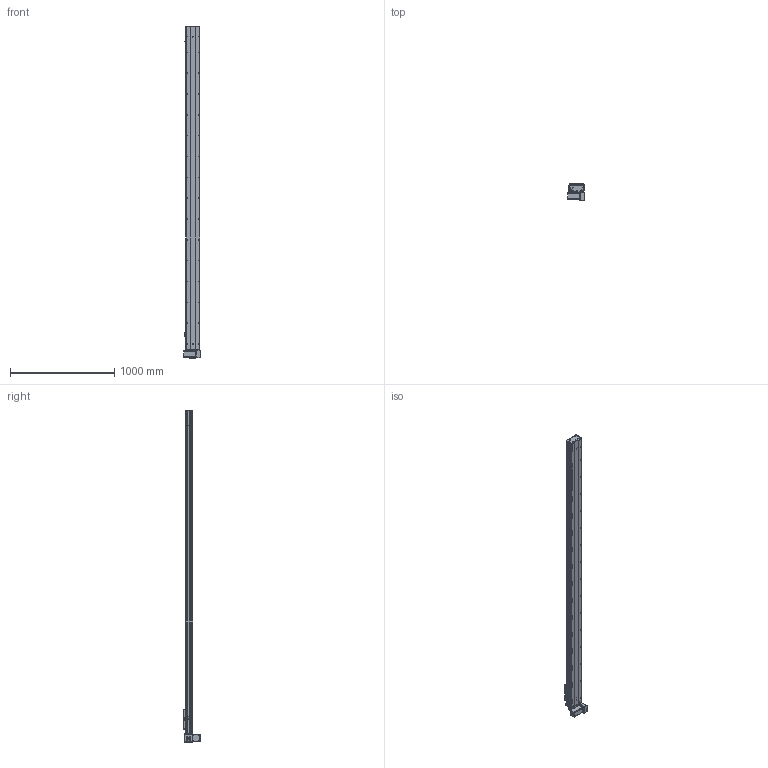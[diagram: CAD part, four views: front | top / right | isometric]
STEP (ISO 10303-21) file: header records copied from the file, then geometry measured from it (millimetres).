
FILE_DESCRIPTION (( 'STEP AP203' ), '1' );
FILE_NAME ('Y135CB-D90-S2800-BM-P400W.STEP', '2020-02-19T02:35:41', ( '微软用户' ), ( '微软中国' ), 'SwSTEP 2.0', 'SolidWorks 2017', '' );
FILE_SCHEMA (( 'CONFIG_CONTROL_DESIGN' ));
Length unit declared in the file: millimetre
Products named in the file (18): C-詩湍揤踡え-陔; Y135CB-耜裔; Y135CB-D90-S2800-BM-P400W; 135CB--詩湍-CE; 135CB---遴掛极.-; Y100-135俋离換覜ん--; 35CB---喘謫眊楊擘啣; Y135C-陔俋离換覜結え-; 0B-埴倛裔啣; 5C--俋欶; 0B-源倛裔啣; 0B-萇儂楊擘啣; C-雄赽釱--; san松下电机400不带刹车----; Y10B--々湍喘謫眊--666; 5CB --掛极耜裔啣-; 00B-俋欶BM--; Y10B-耜蚾蟀諉啣----
Assembly tree (21 placements, depth 2):
  Y135CB-D90-S2800-BM-P400W
    Y135CB-耜裔
    135CB---遴掛极.-
    35CB---喘謫眊楊擘啣
    0B-埴倛裔啣
    0B-源倛裔啣
    0B-萇儂楊擘啣
    san松下电机400不带刹车----
    5CB --掛极耜裔啣-  x2
    C-詩湍揤踡え-陔  x2
    135CB--詩湍-CE
    Y100-135俋离換覜ん--  x3
    Y135C-陔俋离換覜結え-
    5C--俋欶
    C-雄赽釱--
    Y10B--々湍喘謫眊--666
    00B-俋欶BM--
    Y10B-耜蚾蟀諉啣----
Bounding box: 157 x 163.3 x 3188 mm (x, y, z)
Volume: 9060892.9 mm3; surface area: 3592760 mm2
Topology: 21 solids, 21 shells, 981 faces, 2689 edges, 1782 vertices
Faces by surface type: cylinder 509, plane 456, cone 16
Entity records: 31167 total; most frequent: CARTESIAN_POINT 5208, DIRECTION 5181, ORIENTED_EDGE 4854, EDGE_CURVE 2427, AXIS2_PLACEMENT_3D 1903, VERTEX_POINT 1610, LINE 1375, VECTOR 1375
